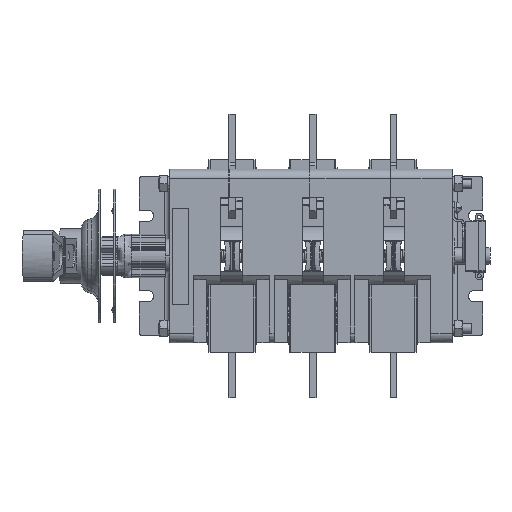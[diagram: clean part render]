
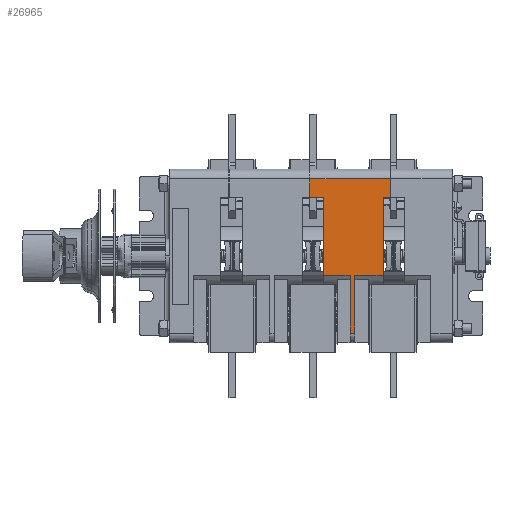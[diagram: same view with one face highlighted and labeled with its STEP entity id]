
A CAD part, front view. The second image highlights one B-rep face of the part: STEP entity #26965.
In plain terms, the highlighted planar face has unit normal (0, -1, 0) as drawn and (0, 1, 0) by its records, which use the part's own axes.
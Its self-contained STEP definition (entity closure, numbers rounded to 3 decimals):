
#2060 = VECTOR ( 'NONE', #58908, 1000. ) ;
#2367 = ORIENTED_EDGE ( 'NONE', *, *, #22082, .F. ) ;
#3232 = CARTESIAN_POINT ( 'NONE',  ( -48., 24., 16.5 ) ) ;
#3715 = DIRECTION ( 'NONE',  ( 0., 0., -1. ) ) ;
#4600 = VERTEX_POINT ( 'NONE', #109795 ) ;
#5869 = LINE ( 'NONE', #15474, #61406 ) ;
#5953 = LINE ( 'NONE', #77927, #136135 ) ;
#7217 = VECTOR ( 'NONE', #71078, 1000. ) ;
#12624 = CARTESIAN_POINT ( 'NONE',  ( -48., 24., 16.5 ) ) ;
#15474 = CARTESIAN_POINT ( 'NONE',  ( -48., 24., 19.5 ) ) ;
#15904 = LINE ( 'NONE', #125294, #2060 ) ;
#21564 = DIRECTION ( 'NONE',  ( 0., 0., 1. ) ) ;
#22082 = EDGE_CURVE ( 'NONE', #104128, #37889, #125814, .T. ) ;
#22541 = EDGE_CURVE ( 'NONE', #76650, #130803, #73803, .T. ) ;
#23284 = EDGE_CURVE ( 'NONE', #4600, #130881, #98093, .T. ) ;
#25236 = VERTEX_POINT ( 'NONE', #76225 ) ;
#26965 = ADVANCED_FACE ( 'NONE', ( #46330 ), #78925, .F. ) ;
#29205 = EDGE_CURVE ( 'NONE', #104128, #130881, #61417, .T. ) ;
#29661 = EDGE_CURVE ( 'NONE', #65115, #143230, #68450, .T. ) ;
#30399 = VECTOR ( 'NONE', #122428, 1000. ) ;
#30499 = DIRECTION ( 'NONE',  ( 1., 0., 0. ) ) ;
#31201 = CARTESIAN_POINT ( 'NONE',  ( 36.5, 24., -8.5 ) ) ;
#33251 = VERTEX_POINT ( 'NONE', #64204 ) ;
#34821 = CARTESIAN_POINT ( 'NONE',  ( -48., 24., 19.5 ) ) ;
#35953 = CARTESIAN_POINT ( 'NONE',  ( -12., 24., 49.423 ) ) ;
#36825 = EDGE_LOOP ( 'NONE', ( #42589, #125725, #120045, #143724, #2367, #88624, #107640, #102981, #81460, #61223, #80613, #73511 ) ) ;
#37266 = CARTESIAN_POINT ( 'NONE',  ( 48., 24., 41.5 ) ) ;
#37889 = VERTEX_POINT ( 'NONE', #108441 ) ;
#40572 = VECTOR ( 'NONE', #120468, 1000. ) ;
#42589 = ORIENTED_EDGE ( 'NONE', *, *, #131851, .F. ) ;
#42929 = EDGE_CURVE ( 'NONE', #33251, #76650, #15904, .T. ) ;
#44879 = CARTESIAN_POINT ( 'NONE',  ( -12., 24., -12.423 ) ) ;
#46330 = FACE_OUTER_BOUND ( 'NONE', #36825, .T. ) ;
#47610 = DIRECTION ( 'NONE',  ( -1., 0., 0. ) ) ;
#48330 = CARTESIAN_POINT ( 'NONE',  ( -48., 24., 19.5 ) ) ;
#52320 = LINE ( 'NONE', #3232, #7217 ) ;
#53120 = CARTESIAN_POINT ( 'NONE',  ( 48., 24., 19.5 ) ) ;
#57794 = DIRECTION ( 'NONE',  ( -1., 0., 0. ) ) ;
#58128 = VECTOR ( 'NONE', #30499, 1000. ) ;
#58374 = CARTESIAN_POINT ( 'NONE',  ( -12., 24., 19.5 ) ) ;
#58908 = DIRECTION ( 'NONE',  ( -1., 0., 0. ) ) ;
#61223 = ORIENTED_EDGE ( 'NONE', *, *, #29661, .T. ) ;
#61406 = VECTOR ( 'NONE', #57794, 1000. ) ;
#61417 = LINE ( 'NONE', #53120, #40572 ) ;
#62117 = EDGE_CURVE ( 'NONE', #143230, #119982, #52320, .T. ) ;
#63458 = CARTESIAN_POINT ( 'NONE',  ( 48., 24., -8.5 ) ) ;
#64204 = CARTESIAN_POINT ( 'NONE',  ( 36.5, 24., 37. ) ) ;
#65115 = VERTEX_POINT ( 'NONE', #108394 ) ;
#66413 = CARTESIAN_POINT ( 'NONE',  ( -48., 24., 19.5 ) ) ;
#66810 = DIRECTION ( 'NONE',  ( 0., 0., -1. ) ) ;
#68450 = LINE ( 'NONE', #44879, #113466 ) ;
#69148 = VERTEX_POINT ( 'NONE', #66413 ) ;
#70020 = LINE ( 'NONE', #113996, #125491 ) ;
#71078 = DIRECTION ( 'NONE',  ( -1., 0., 0. ) ) ;
#73511 = ORIENTED_EDGE ( 'NONE', *, *, #129540, .F. ) ;
#73803 = LINE ( 'NONE', #35953, #99918 ) ;
#76225 = CARTESIAN_POINT ( 'NONE',  ( 36.5, 24., 0. ) ) ;
#76650 = VERTEX_POINT ( 'NONE', #93643 ) ;
#77582 = AXIS2_PLACEMENT_3D ( 'NONE', #34821, #107737, #137689 ) ;
#77927 = CARTESIAN_POINT ( 'NONE',  ( 36.5, 24., 41.5 ) ) ;
#78925 = PLANE ( 'NONE',  #77582 ) ;
#80374 = EDGE_CURVE ( 'NONE', #25236, #65115, #70020, .T. ) ;
#80613 = ORIENTED_EDGE ( 'NONE', *, *, #62117, .T. ) ;
#81460 = ORIENTED_EDGE ( 'NONE', *, *, #80374, .T. ) ;
#85960 = DIRECTION ( 'NONE',  ( 0., 0., 1. ) ) ;
#87003 = CARTESIAN_POINT ( 'NONE',  ( 36.5, 24., 41.5 ) ) ;
#87479 = EDGE_CURVE ( 'NONE', #4600, #25236, #128088, .T. ) ;
#88048 = VECTOR ( 'NONE', #85960, 1000. ) ;
#88624 = ORIENTED_EDGE ( 'NONE', *, *, #29205, .T. ) ;
#90248 = DIRECTION ( 'NONE',  ( 0., 0., -1. ) ) ;
#92299 = EDGE_CURVE ( 'NONE', #37889, #33251, #5953, .T. ) ;
#93190 = CARTESIAN_POINT ( 'NONE',  ( 48., 24., -8.5 ) ) ;
#93643 = CARTESIAN_POINT ( 'NONE',  ( -12., 24., 37. ) ) ;
#98093 = LINE ( 'NONE', #63458, #58128 ) ;
#99918 = VECTOR ( 'NONE', #90248, 1000. ) ;
#102981 = ORIENTED_EDGE ( 'NONE', *, *, #87479, .T. ) ;
#104128 = VERTEX_POINT ( 'NONE', #37266 ) ;
#107640 = ORIENTED_EDGE ( 'NONE', *, *, #23284, .F. ) ;
#107737 = DIRECTION ( 'NONE',  ( 0., -1., 0. ) ) ;
#108394 = CARTESIAN_POINT ( 'NONE',  ( -12., 24., 0. ) ) ;
#108441 = CARTESIAN_POINT ( 'NONE',  ( 36.5, 24., 41.5 ) ) ;
#109795 = CARTESIAN_POINT ( 'NONE',  ( 36.5, 24., -8.5 ) ) ;
#113466 = VECTOR ( 'NONE', #21564, 1000. ) ;
#113996 = CARTESIAN_POINT ( 'NONE',  ( 36.5, 24., 0. ) ) ;
#115504 = VECTOR ( 'NONE', #3715, 1000. ) ;
#119396 = CARTESIAN_POINT ( 'NONE',  ( -12., 24., 16.5 ) ) ;
#119982 = VERTEX_POINT ( 'NONE', #12624 ) ;
#120045 = ORIENTED_EDGE ( 'NONE', *, *, #42929, .F. ) ;
#120468 = DIRECTION ( 'NONE',  ( 0., 0., -1. ) ) ;
#122428 = DIRECTION ( 'NONE',  ( -1., 0., 0. ) ) ;
#122521 = LINE ( 'NONE', #48330, #115504 ) ;
#125294 = CARTESIAN_POINT ( 'NONE',  ( 36.5, 24., 37. ) ) ;
#125491 = VECTOR ( 'NONE', #47610, 1000. ) ;
#125725 = ORIENTED_EDGE ( 'NONE', *, *, #22541, .F. ) ;
#125814 = LINE ( 'NONE', #87003, #30399 ) ;
#128088 = LINE ( 'NONE', #31201, #88048 ) ;
#129540 = EDGE_CURVE ( 'NONE', #69148, #119982, #122521, .T. ) ;
#130803 = VERTEX_POINT ( 'NONE', #58374 ) ;
#130881 = VERTEX_POINT ( 'NONE', #93190 ) ;
#131851 = EDGE_CURVE ( 'NONE', #130803, #69148, #5869, .T. ) ;
#136135 = VECTOR ( 'NONE', #66810, 1000. ) ;
#137689 = DIRECTION ( 'NONE',  ( 1., 0., 0. ) ) ;
#143230 = VERTEX_POINT ( 'NONE', #119396 ) ;
#143724 = ORIENTED_EDGE ( 'NONE', *, *, #92299, .F. ) ;
